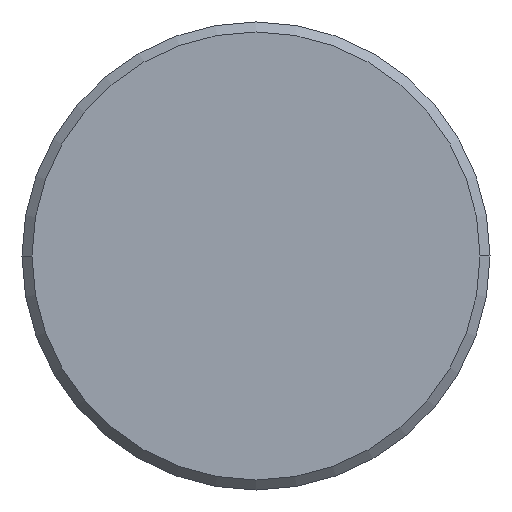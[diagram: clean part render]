
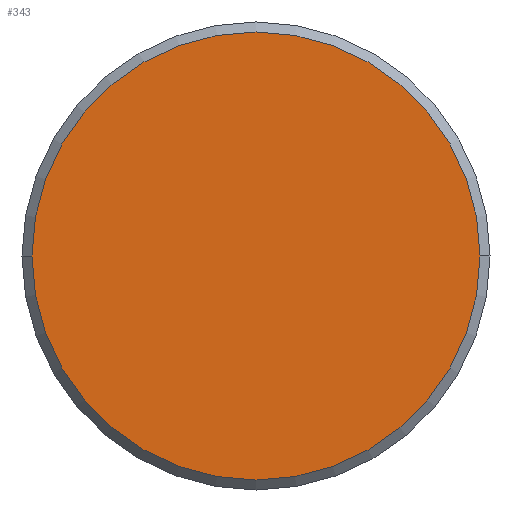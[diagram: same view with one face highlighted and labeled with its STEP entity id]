
A CAD part, left-side view. The second image highlights one B-rep face of the part: STEP entity #343.
In plain terms, the highlighted planar face has unit normal (-1, 0, 0).
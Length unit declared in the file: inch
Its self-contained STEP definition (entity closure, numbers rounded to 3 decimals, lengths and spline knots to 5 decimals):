
#13 = CIRCLE ( 'NONE', #46, 0.08975 ) ;
#46 = AXIS2_PLACEMENT_3D ( 'NONE', #140, #318, #229 ) ;
#48 = ORIENTED_EDGE ( 'NONE', *, *, #93, .T. ) ;
#83 = EDGE_LOOP ( 'NONE', ( #48, #224 ) ) ;
#93 = EDGE_CURVE ( 'NONE', #183, #96, #205, .T. ) ;
#96 = VERTEX_POINT ( 'NONE', #228 ) ;
#114 = FACE_OUTER_BOUND ( 'NONE', #83, .T. ) ;
#140 = CARTESIAN_POINT ( 'NONE',  ( 0., 0., 0. ) ) ;
#155 = EDGE_CURVE ( 'NONE', #96, #183, #13, .T. ) ;
#168 = CARTESIAN_POINT ( 'NONE',  ( 0., 0., 0. ) ) ;
#178 = PLANE ( 'NONE',  #277 ) ;
#183 = VERTEX_POINT ( 'NONE', #204 ) ;
#204 = CARTESIAN_POINT ( 'NONE',  ( 0., 0.08975, 0. ) ) ;
#205 = CIRCLE ( 'NONE', #328, 0.08975 ) ;
#224 = ORIENTED_EDGE ( 'NONE', *, *, #155, .T. ) ;
#228 = CARTESIAN_POINT ( 'NONE',  ( 0., -0.08975, 0. ) ) ;
#229 = DIRECTION ( 'NONE',  ( 0., -1., 0. ) ) ;
#277 = AXIS2_PLACEMENT_3D ( 'NONE', #376, #352, #350 ) ;
#317 = DIRECTION ( 'NONE',  ( 0., -1., 0. ) ) ;
#318 = DIRECTION ( 'NONE',  ( -1., 0., 0. ) ) ;
#328 = AXIS2_PLACEMENT_3D ( 'NONE', #168, #364, #317 ) ;
#343 = ADVANCED_FACE ( 'NONE', ( #114 ), #178, .T. ) ;
#350 = DIRECTION ( 'NONE',  ( 0., -1., 0. ) ) ;
#352 = DIRECTION ( 'NONE',  ( -1., 0., 0. ) ) ;
#364 = DIRECTION ( 'NONE',  ( -1., 0., 0. ) ) ;
#376 = CARTESIAN_POINT ( 'NONE',  ( 0., 0., 0. ) ) ;
